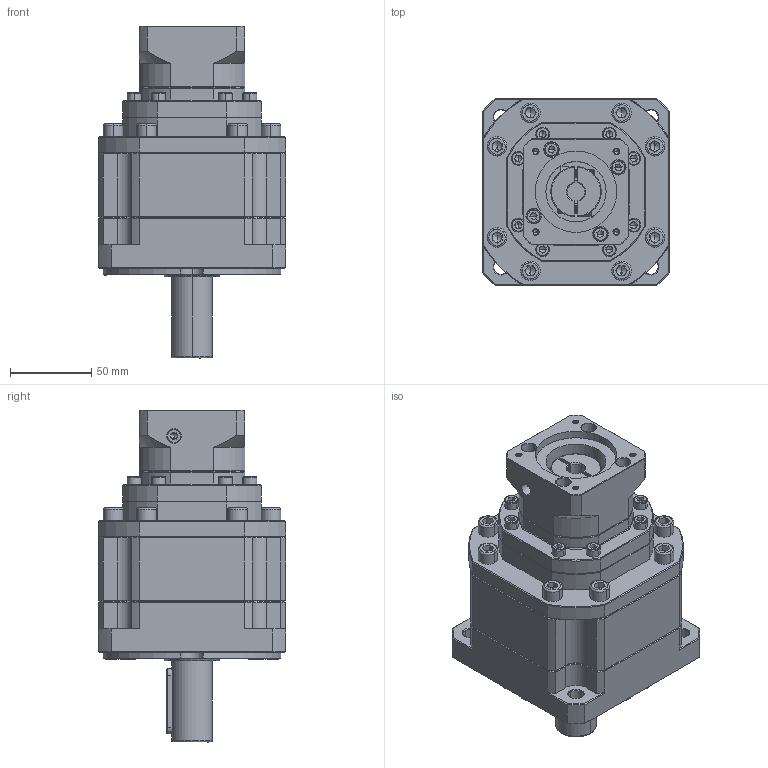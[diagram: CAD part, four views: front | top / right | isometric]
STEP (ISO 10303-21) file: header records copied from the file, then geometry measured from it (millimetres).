
FILE_DESCRIPTION (( 'STEP AP214' ), '1' );
FILE_NAME ('ZB115A-D25-L3-11-50-70-M4.step', '2023-03-03T09:52:29', ( '' ), ( 'Microsoft' ), 'SwSTEP 2.0', 'SolidWorks 2016', '' );
FILE_SCHEMA (( 'AUTOMOTIVE_DESIGN' ));
Length unit declared in the file: millimetre
Products named in the file (1): ZB115A-D25-L3-11-50-70-M4
Bounding box: 115 x 115 x 204 mm (x, y, z)
Volume: 1294938 mm3; surface area: 121779.5 mm2
Topology: 7 solids, 7 shells, 2269 faces, 5892 edges, 3732 vertices
Faces by surface type: plane 1126, cylinder 434, bspline 345, cone 342, torus 22
Entity records: 114107 total; most frequent: CARTESIAN_POINT 36487, ORIENTED_EDGE 11660, DIRECTION 9746, EDGE_CURVE 5830, VERTEX_POINT 3732, LINE 3632, VECTOR 3632, AXIS2_PLACEMENT_3D 3057
